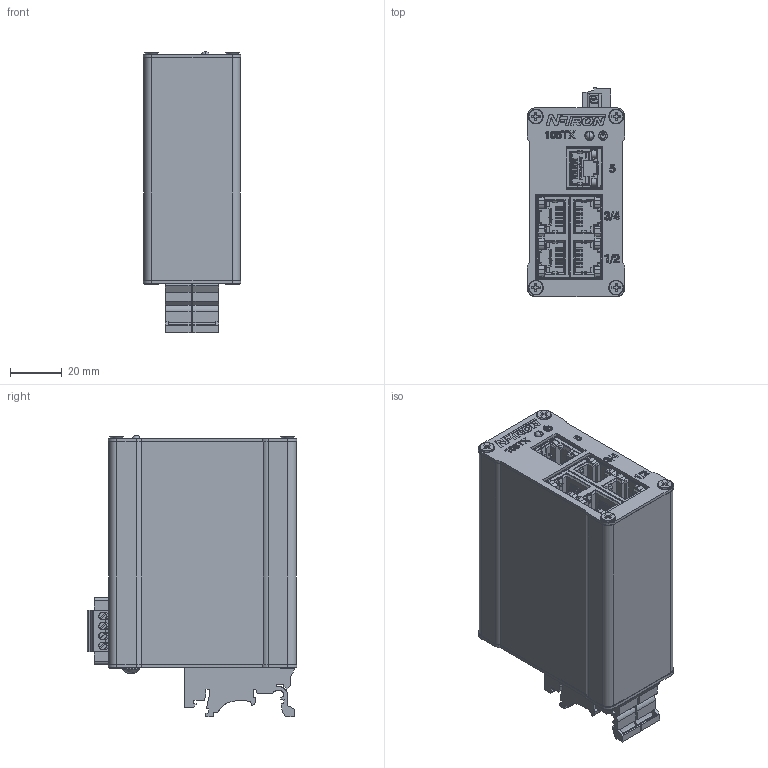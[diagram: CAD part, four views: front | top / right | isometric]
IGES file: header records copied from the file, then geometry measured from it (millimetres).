
Start section: SolidWorks IGES file using analytic representation for surfaces
Global section: file name: C:\Users\joseph.cirabisi\Desktop\105TX\105TX (IGES).IGS; native system: SolidWorks 2022; preprocessor: SolidWorks 2022; author: joseph.cirabisi; date: 231103.154814; units: inch
Bounding box: 37.83 x 80.93 x 108.59 mm (x, y, z)
Surface area: 65875.5 mm2 (no closed solid volume)
Topology: 0 solids, 0 shells, 4419 faces, 33833 edges, 33797 vertices
Faces by surface type: bspline 3581, revolution 838
